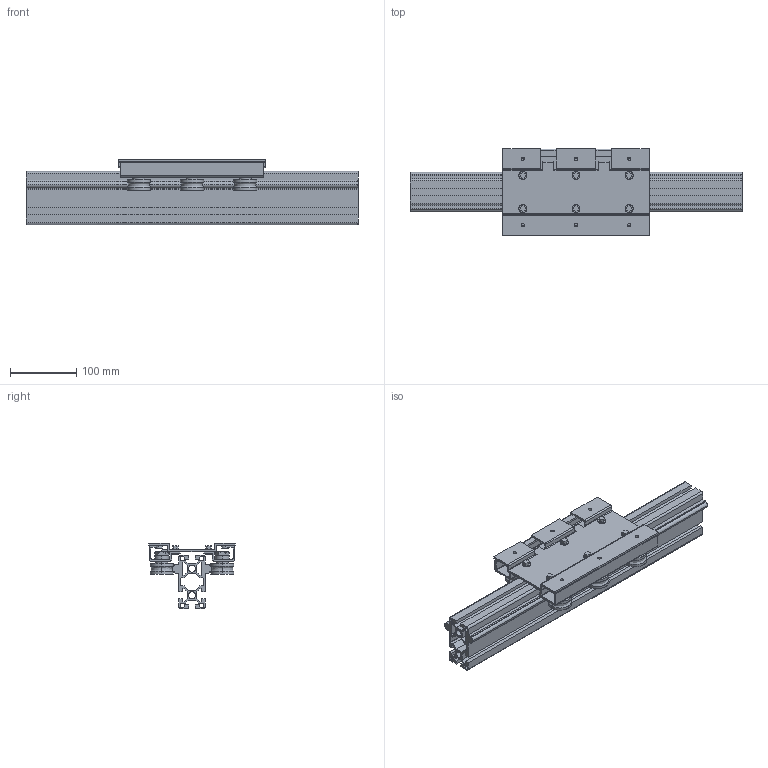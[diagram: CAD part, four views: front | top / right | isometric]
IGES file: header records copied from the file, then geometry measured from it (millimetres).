
Global section: file name: No Iges File Name specified; native system: AutoDesk Inventor R11.0; preprocessor: AutoDesk Inventor Iges Exporter R11.0; author: No Author specified; organization: No Organization specified; date: 20170802.093621; units: millimetre
Bounding box: 500 x 130 x 98 mm (x, y, z)
Surface area: 547710.7 mm2 (no closed solid volume)
Topology: 0 solids, 0 shells, 626 faces, 3856 edges, 3856 vertices
Faces by surface type: bspline 626
